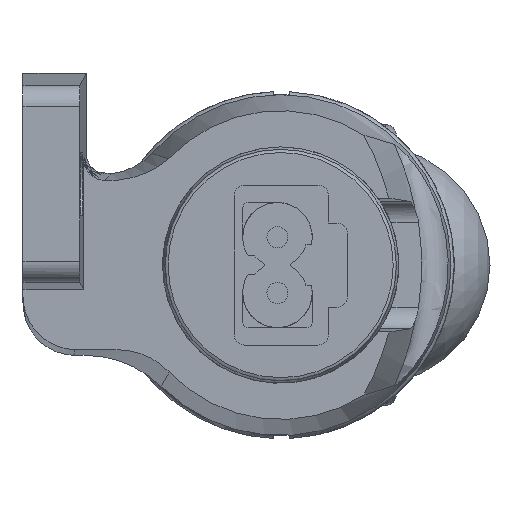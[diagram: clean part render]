
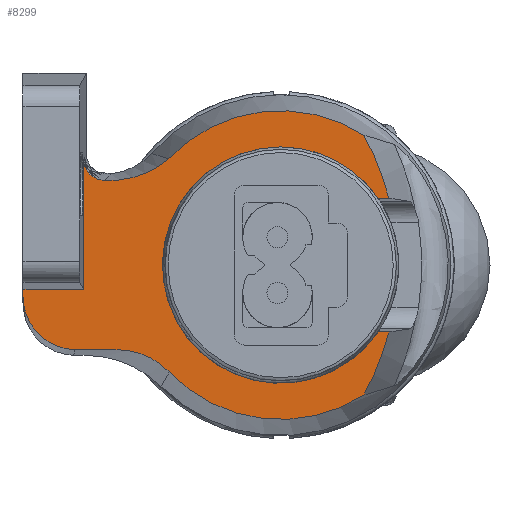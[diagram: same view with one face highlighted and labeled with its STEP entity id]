
A CAD part, left-side view. The second image highlights one B-rep face of the part: STEP entity #8299.
In plain terms, the highlighted planar face has unit normal (-1, 0, 0).
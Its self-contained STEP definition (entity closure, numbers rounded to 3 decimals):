
#113=PLANE('',#8976);
#720=LINE('',#13475,#1504);
#721=LINE('',#13482,#1505);
#722=LINE('',#13484,#1506);
#723=LINE('',#13486,#1507);
#724=LINE('',#13490,#1508);
#725=LINE('',#13498,#1509);
#1504=VECTOR('',#10485,1000.);
#1505=VECTOR('',#10492,1000.);
#1506=VECTOR('',#10493,1000.);
#1507=VECTOR('',#10494,1000.);
#1508=VECTOR('',#10497,1000.);
#1509=VECTOR('',#10504,1000.);
#2904=ORIENTED_EDGE('',*,*,#5259,.F.);
#2905=ORIENTED_EDGE('',*,*,#5309,.T.);
#2906=ORIENTED_EDGE('',*,*,#5288,.T.);
#2907=ORIENTED_EDGE('',*,*,#5310,.F.);
#2908=ORIENTED_EDGE('',*,*,#5311,.F.);
#2909=ORIENTED_EDGE('',*,*,#5312,.F.);
#2910=ORIENTED_EDGE('',*,*,#5313,.T.);
#2911=ORIENTED_EDGE('',*,*,#5314,.F.);
#2912=ORIENTED_EDGE('',*,*,#5315,.F.);
#2913=ORIENTED_EDGE('',*,*,#5316,.F.);
#2914=ORIENTED_EDGE('',*,*,#5317,.F.);
#2915=ORIENTED_EDGE('',*,*,#5318,.F.);
#2916=ORIENTED_EDGE('',*,*,#5319,.F.);
#2917=ORIENTED_EDGE('',*,*,#5320,.T.);
#2918=ORIENTED_EDGE('',*,*,#5321,.T.);
#5259=EDGE_CURVE('',#6434,#6435,#6938,.F.);
#5288=EDGE_CURVE('',#6459,#6460,#6944,.T.);
#5309=EDGE_CURVE('',#6434,#6459,#720,.T.);
#5310=EDGE_CURVE('',#6475,#6460,#6955,.T.);
#5311=EDGE_CURVE('',#6476,#6475,#6956,.F.);
#5312=EDGE_CURVE('',#6477,#6476,#6957,.F.);
#5313=EDGE_CURVE('',#6477,#6478,#721,.T.);
#5314=EDGE_CURVE('',#6479,#6478,#722,.T.);
#5315=EDGE_CURVE('',#6480,#6479,#723,.T.);
#5316=EDGE_CURVE('',#6481,#6480,#6958,.T.);
#5317=EDGE_CURVE('',#6482,#6481,#724,.T.);
#5318=EDGE_CURVE('',#6483,#6482,#6959,.F.);
#5319=EDGE_CURVE('',#6484,#6483,#6960,.T.);
#5320=EDGE_CURVE('',#6484,#6485,#6961,.T.);
#5321=EDGE_CURVE('',#6485,#6435,#725,.T.);
#6434=VERTEX_POINT('',#13323);
#6435=VERTEX_POINT('',#13325);
#6459=VERTEX_POINT('',#13424);
#6460=VERTEX_POINT('',#13425);
#6475=VERTEX_POINT('',#13477);
#6476=VERTEX_POINT('',#13479);
#6477=VERTEX_POINT('',#13481);
#6478=VERTEX_POINT('',#13483);
#6479=VERTEX_POINT('',#13485);
#6480=VERTEX_POINT('',#13487);
#6481=VERTEX_POINT('',#13489);
#6482=VERTEX_POINT('',#13491);
#6483=VERTEX_POINT('',#13493);
#6484=VERTEX_POINT('',#13495);
#6485=VERTEX_POINT('',#13497);
#6938=CIRCLE('',#8948,11.235);
#6944=CIRCLE('',#8963,25.685);
#6955=CIRCLE('',#8977,14.673);
#6956=CIRCLE('',#8978,8.689);
#6957=CIRCLE('',#8979,1.998);
#6958=CIRCLE('',#8980,5.084);
#6959=CIRCLE('',#8981,6.868);
#6960=CIRCLE('',#8982,14.673);
#6961=CIRCLE('',#8983,25.685);
#7269=EDGE_LOOP('',(#2904,#2905,#2906,#2907,#2908,#2909,#2910,#2911,#2912,
#2913,#2914,#2915,#2916,#2917,#2918));
#7787=FACE_BOUND('',#7269,.T.);
#8299=ADVANCED_FACE('',(#7787),#113,.F.);
#8948=AXIS2_PLACEMENT_3D('',#13324,#10413,#10414);
#8963=AXIS2_PLACEMENT_3D('',#13423,#10451,#10452);
#8976=AXIS2_PLACEMENT_3D('',#13474,#10483,#10484);
#8977=AXIS2_PLACEMENT_3D('',#13476,#10486,#10487);
#8978=AXIS2_PLACEMENT_3D('',#13478,#10488,#10489);
#8979=AXIS2_PLACEMENT_3D('',#13480,#10490,#10491);
#8980=AXIS2_PLACEMENT_3D('',#13488,#10495,#10496);
#8981=AXIS2_PLACEMENT_3D('',#13492,#10498,#10499);
#8982=AXIS2_PLACEMENT_3D('',#13494,#10500,#10501);
#8983=AXIS2_PLACEMENT_3D('',#13496,#10502,#10503);
#10413=DIRECTION('',(1.,0.,0.));
#10414=DIRECTION('',(0.,0.,-1.));
#10451=DIRECTION('',(-1.,0.,0.));
#10452=DIRECTION('',(0.,0.,1.));
#10483=DIRECTION('',(1.,0.,0.));
#10484=DIRECTION('',(0.,0.,-1.));
#10485=DIRECTION('',(0.,-1.,0.));
#10486=DIRECTION('',(1.,0.,0.));
#10487=DIRECTION('',(0.,0.,-1.));
#10488=DIRECTION('',(1.,0.,0.));
#10489=DIRECTION('',(0.,0.,-1.));
#10490=DIRECTION('',(1.,0.,0.));
#10491=DIRECTION('',(0.,0.,-1.));
#10492=DIRECTION('',(0.,0.,-1.));
#10493=DIRECTION('',(0.,-1.,0.));
#10494=DIRECTION('',(0.,0.,1.));
#10495=DIRECTION('',(1.,0.,0.));
#10496=DIRECTION('',(0.,0.,-1.));
#10497=DIRECTION('',(0.,1.,0.));
#10498=DIRECTION('',(1.,0.,0.));
#10499=DIRECTION('',(0.,0.,-1.));
#10500=DIRECTION('',(1.,0.,0.));
#10501=DIRECTION('',(0.,0.,-1.));
#10502=DIRECTION('',(-1.,0.,0.));
#10503=DIRECTION('',(0.,0.,1.));
#10504=DIRECTION('',(0.,1.,0.));
#13323=CARTESIAN_POINT('',(-176.,-33.753,6.357));
#13324=CARTESIAN_POINT('',(-176.,-24.489,0.));
#13325=CARTESIAN_POINT('',(-176.,-33.753,-6.357));
#13423=CARTESIAN_POINT('',(-176.,-9.889,0.));
#13424=CARTESIAN_POINT('',(-176.,-34.775,6.357));
#13425=CARTESIAN_POINT('',(-176.,-32.41,12.349));
#13474=CARTESIAN_POINT('',(-176.,-7.775,10.052));
#13475=CARTESIAN_POINT('',(-176.,-7.775,6.357));
#13476=CARTESIAN_POINT('',(-176.,-24.489,0.));
#13477=CARTESIAN_POINT('',(-176.,-13.842,10.096));
#13478=CARTESIAN_POINT('',(-176.,-8.23,16.73));
#13479=CARTESIAN_POINT('',(-176.,-7.753,8.054));
#13480=CARTESIAN_POINT('',(-176.,-7.775,10.052));
#13481=CARTESIAN_POINT('',(-176.,-5.771,10.052));
#13482=CARTESIAN_POINT('',(-176.,-5.764,20.));
#13483=CARTESIAN_POINT('',(-176.,-5.764,-2.318));
#13484=CARTESIAN_POINT('',(-176.,-15.,-2.318));
#13485=CARTESIAN_POINT('',(-176.,0.,-2.318));
#13486=CARTESIAN_POINT('',(-176.,0.,-2.955));
#13487=CARTESIAN_POINT('',(-176.,0.,-2.955));
#13488=CARTESIAN_POINT('',(-176.,-5.084,-2.955));
#13489=CARTESIAN_POINT('',(-176.,-4.983,-8.038));
#13490=CARTESIAN_POINT('',(-176.,-8.938,-8.038));
#13491=CARTESIAN_POINT('',(-176.,-8.938,-8.038));
#13492=CARTESIAN_POINT('',(-176.,-8.938,-14.906));
#13493=CARTESIAN_POINT('',(-176.,-13.896,-10.153));
#13494=CARTESIAN_POINT('',(-176.,-24.489,0.));
#13495=CARTESIAN_POINT('',(-176.,-32.41,-12.349));
#13496=CARTESIAN_POINT('',(-176.,-9.889,0.));
#13497=CARTESIAN_POINT('',(-176.,-34.775,-6.357));
#13498=CARTESIAN_POINT('',(-176.,-7.775,-6.357));
